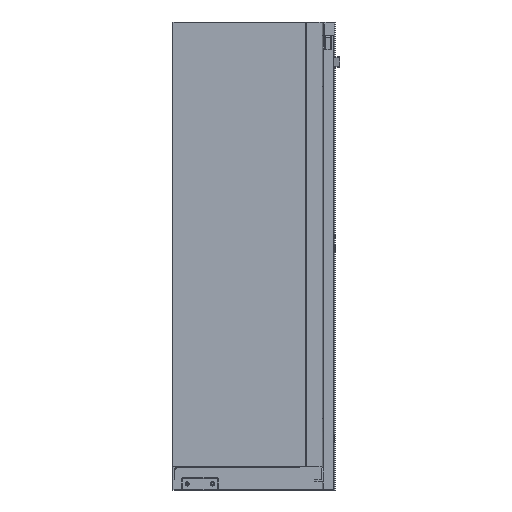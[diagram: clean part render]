
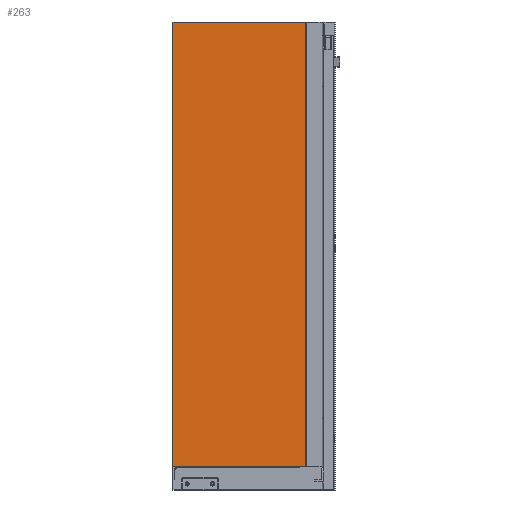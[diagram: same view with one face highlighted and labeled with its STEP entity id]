
A CAD part, left-side view. The second image highlights one B-rep face of the part: STEP entity #263.
In plain terms, the highlighted planar face has unit normal (-1, 0, 0).
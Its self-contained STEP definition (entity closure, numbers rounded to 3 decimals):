
#89 = VECTOR ( 'NONE', #8758, 1000. ) ;
#212 = ORIENTED_EDGE ( 'NONE', *, *, #3341, .F. ) ;
#263 = ADVANCED_FACE ( 'NONE', ( #11145 ), #10368, .T. ) ;
#793 = CARTESIAN_POINT ( 'NONE',  ( 0.5, 0., 0. ) ) ;
#928 = DIRECTION ( 'NONE',  ( 0., 0., 1. ) ) ;
#1251 = CARTESIAN_POINT ( 'NONE',  ( 0.5, 0., -473.5 ) ) ;
#1546 = LINE ( 'NONE', #2917, #11723 ) ;
#2055 = ORIENTED_EDGE ( 'NONE', *, *, #9826, .F. ) ;
#2299 = CARTESIAN_POINT ( 'NONE',  ( 0.5, 141.8, -562.455 ) ) ;
#2494 = LINE ( 'NONE', #793, #89 ) ;
#2550 = VERTEX_POINT ( 'NONE', #11679 ) ;
#2917 = CARTESIAN_POINT ( 'NONE',  ( 0.5, 0., -562.455 ) ) ;
#3341 = EDGE_CURVE ( 'NONE', #6800, #3946, #3629, .T. ) ;
#3629 = LINE ( 'NONE', #1251, #8608 ) ;
#3946 = VERTEX_POINT ( 'NONE', #11687 ) ;
#6266 = DIRECTION ( 'NONE',  ( 0., 1., 0. ) ) ;
#6550 = AXIS2_PLACEMENT_3D ( 'NONE', #10395, #10337, #10326 ) ;
#6603 = EDGE_LOOP ( 'NONE', ( #212, #7570, #6982, #2055 ) ) ;
#6800 = VERTEX_POINT ( 'NONE', #12046 ) ;
#6982 = ORIENTED_EDGE ( 'NONE', *, *, #7282, .T. ) ;
#7282 = EDGE_CURVE ( 'NONE', #11808, #2550, #2494, .T. ) ;
#7356 = EDGE_CURVE ( 'NONE', #6800, #11808, #1546, .T. ) ;
#7570 = ORIENTED_EDGE ( 'NONE', *, *, #7356, .T. ) ;
#8130 = CARTESIAN_POINT ( 'NONE',  ( 0.5, 0., 0. ) ) ;
#8233 = DIRECTION ( 'NONE',  ( 0., 0., 1. ) ) ;
#8466 = LINE ( 'NONE', #2299, #8764 ) ;
#8608 = VECTOR ( 'NONE', #6266, 1000. ) ;
#8758 = DIRECTION ( 'NONE',  ( 0., 1., 0. ) ) ;
#8764 = VECTOR ( 'NONE', #8233, 1000. ) ;
#9826 = EDGE_CURVE ( 'NONE', #3946, #2550, #8466, .T. ) ;
#10326 = DIRECTION ( 'NONE',  ( 0., 0., 1. ) ) ;
#10337 = DIRECTION ( 'NONE',  ( -1., 0., 0. ) ) ;
#10368 = PLANE ( 'NONE',  #6550 ) ;
#10395 = CARTESIAN_POINT ( 'NONE',  ( 0.5, 0., -562.455 ) ) ;
#11145 = FACE_OUTER_BOUND ( 'NONE', #6603, .T. ) ;
#11679 = CARTESIAN_POINT ( 'NONE',  ( 0.5, 141.8, 0. ) ) ;
#11687 = CARTESIAN_POINT ( 'NONE',  ( 0.5, 141.8, -473.5 ) ) ;
#11723 = VECTOR ( 'NONE', #928, 1000. ) ;
#11808 = VERTEX_POINT ( 'NONE', #8130 ) ;
#12046 = CARTESIAN_POINT ( 'NONE',  ( 0.5, 0., -473.5 ) ) ;
